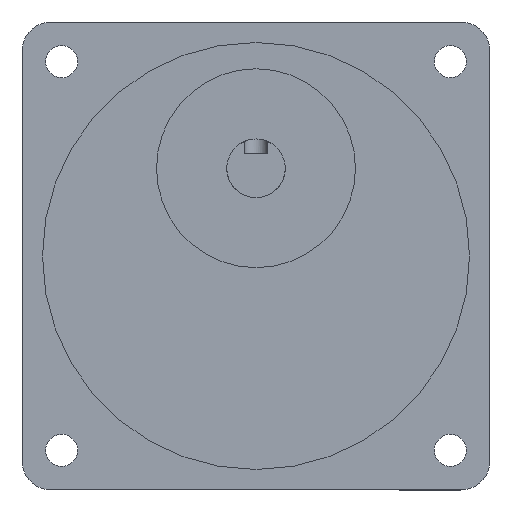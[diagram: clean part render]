
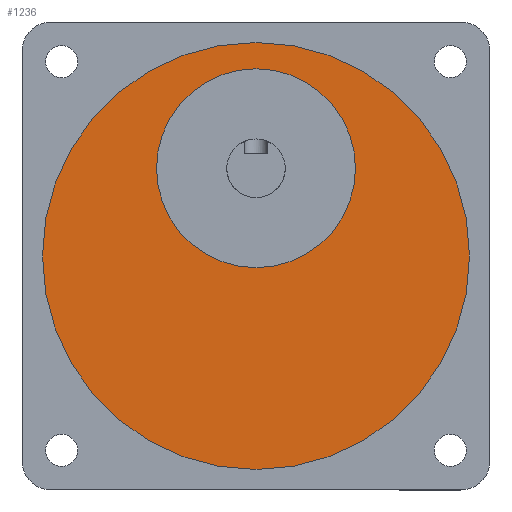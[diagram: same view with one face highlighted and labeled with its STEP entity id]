
A CAD part, front view. The second image highlights one B-rep face of the part: STEP entity #1236.
In plain terms, the highlighted planar face has unit normal (0, -1, 0).
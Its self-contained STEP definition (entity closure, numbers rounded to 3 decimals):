
#318 = ORIENTED_EDGE ( 'NONE', *, *, #1074, .F. ) ;
#359 = VERTEX_POINT ( 'NONE', #4428 ) ;
#482 = EDGE_CURVE ( 'NONE', #359, #3152, #1349, .T. ) ;
#611 = ORIENTED_EDGE ( 'NONE', *, *, #482, .F. ) ;
#620 = AXIS2_PLACEMENT_3D ( 'NONE', #4212, #4256, #4629 ) ;
#631 = AXIS2_PLACEMENT_3D ( 'NONE', #1157, #3795, #1517 ) ;
#772 = AXIS2_PLACEMENT_3D ( 'NONE', #2988, #4821, #3718 ) ;
#830 = CARTESIAN_POINT ( 'NONE',  ( 40., -30., 76.5 ) ) ;
#901 = CIRCLE ( 'NONE', #2573, 36.5 ) ;
#1012 = VERTEX_POINT ( 'NONE', #830 ) ;
#1074 = EDGE_CURVE ( 'NONE', #3152, #359, #1490, .T. ) ;
#1157 = CARTESIAN_POINT ( 'NONE',  ( 40., -30., 40. ) ) ;
#1204 = EDGE_LOOP ( 'NONE', ( #318, #611 ) ) ;
#1227 = EDGE_CURVE ( 'NONE', #1012, #4767, #901, .T. ) ;
#1236 = ADVANCED_FACE ( 'NONE', ( #4236, #1899 ), #1855, .T. ) ;
#1349 = CIRCLE ( 'NONE', #4595, 17. ) ;
#1490 = CIRCLE ( 'NONE', #620, 17. ) ;
#1517 = DIRECTION ( 'NONE',  ( 0., 0., -1. ) ) ;
#1831 = CARTESIAN_POINT ( 'NONE',  ( 40., -30., 40. ) ) ;
#1855 = PLANE ( 'NONE',  #772 ) ;
#1868 = DIRECTION ( 'NONE',  ( 0., 0., -1. ) ) ;
#1899 = FACE_OUTER_BOUND ( 'NONE', #4076, .T. ) ;
#2361 = CIRCLE ( 'NONE', #631, 36.5 ) ;
#2573 = AXIS2_PLACEMENT_3D ( 'NONE', #1831, #3388, #1868 ) ;
#2624 = EDGE_CURVE ( 'NONE', #4767, #1012, #2361, .T. ) ;
#2988 = CARTESIAN_POINT ( 'NONE',  ( 40., -30., 40. ) ) ;
#3098 = ORIENTED_EDGE ( 'NONE', *, *, #2624, .T. ) ;
#3152 = VERTEX_POINT ( 'NONE', #3338 ) ;
#3208 = DIRECTION ( 'NONE',  ( 0., -1., 0. ) ) ;
#3338 = CARTESIAN_POINT ( 'NONE',  ( 40., -30., 72. ) ) ;
#3356 = CARTESIAN_POINT ( 'NONE',  ( 40., -30., 3.5 ) ) ;
#3388 = DIRECTION ( 'NONE',  ( 0., -1., 0. ) ) ;
#3440 = ORIENTED_EDGE ( 'NONE', *, *, #1227, .T. ) ;
#3578 = DIRECTION ( 'NONE',  ( 0., 0., -1. ) ) ;
#3718 = DIRECTION ( 'NONE',  ( 0., 0., -1. ) ) ;
#3795 = DIRECTION ( 'NONE',  ( 0., -1., 0. ) ) ;
#3981 = CARTESIAN_POINT ( 'NONE',  ( 40., -30., 55. ) ) ;
#4076 = EDGE_LOOP ( 'NONE', ( #3098, #3440 ) ) ;
#4212 = CARTESIAN_POINT ( 'NONE',  ( 40., -30., 55. ) ) ;
#4236 = FACE_BOUND ( 'NONE', #1204, .T. ) ;
#4256 = DIRECTION ( 'NONE',  ( 0., -1., 0. ) ) ;
#4428 = CARTESIAN_POINT ( 'NONE',  ( 40., -30., 38. ) ) ;
#4595 = AXIS2_PLACEMENT_3D ( 'NONE', #3981, #3208, #3578 ) ;
#4629 = DIRECTION ( 'NONE',  ( 0., 0., -1. ) ) ;
#4767 = VERTEX_POINT ( 'NONE', #3356 ) ;
#4821 = DIRECTION ( 'NONE',  ( 0., -1., 0. ) ) ;
